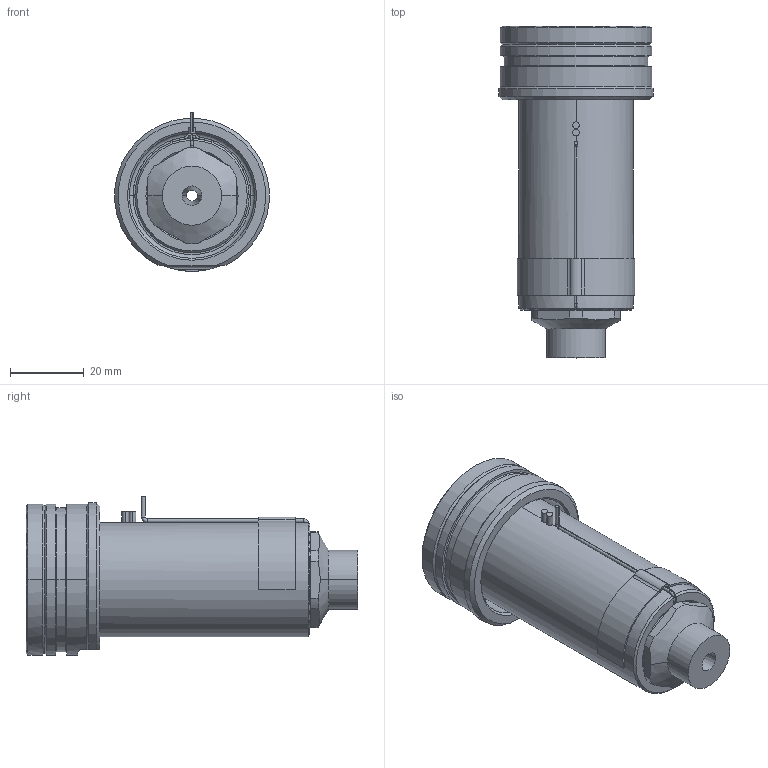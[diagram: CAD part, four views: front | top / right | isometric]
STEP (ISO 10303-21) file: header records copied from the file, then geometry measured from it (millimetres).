
FILE_DESCRIPTION((''),'2;1');
FILE_NAME('EO12_SG_SG_070_SW','2024-02-19T12:27:37',('sundharh'),(''),'CREO PARAMETRIC BY PTC INC, 2023154','CREO PARAMETRIC BY PTC INC, 2023154','');
FILE_SCHEMA(('CONFIG_CONTROL_DESIGN'));
Length unit declared in the file: millimetre
Products named in the file (1): EO12_SG_SG_070_SW
Bounding box: 41.85 x 90 x 43 mm (x, y, z)
Volume: 61898 mm3; surface area: 18735.1 mm2
Topology: 2 solids, 3 shells, 177 faces, 448 edges, 273 vertices
Faces by surface type: cylinder 65, plane 46, cone 33, torus 27, sphere 3, bspline 3
Entity records: 5992 total; most frequent: CARTESIAN_POINT 1640, DIRECTION 956, ORIENTED_EDGE 888, EDGE_CURVE 444, AXIS2_PLACEMENT_3D 399, VERTEX_POINT 273, CIRCLE 225, EDGE_LOOP 193
